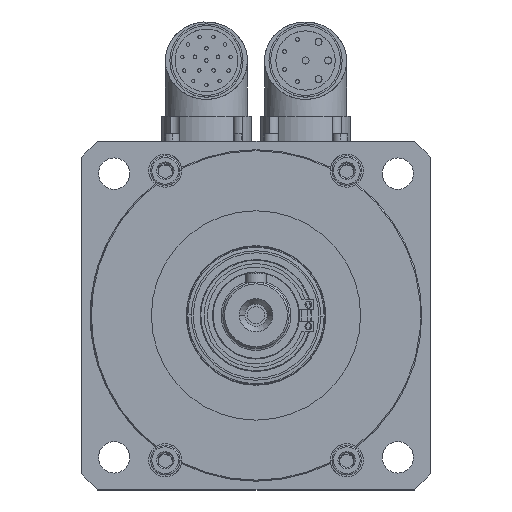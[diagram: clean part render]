
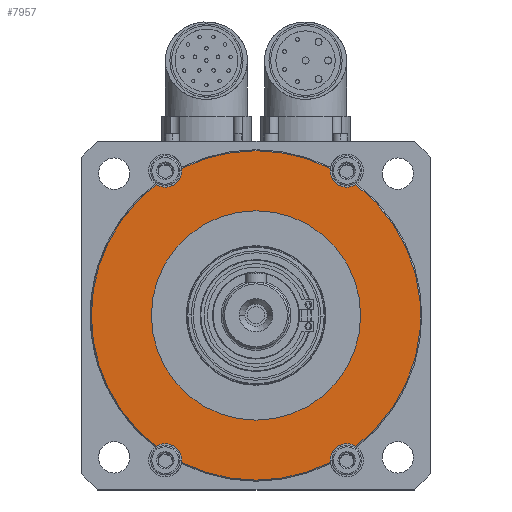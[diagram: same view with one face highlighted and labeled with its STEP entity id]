
A CAD part, top view. The second image highlights one B-rep face of the part: STEP entity #7957.
In plain terms, the highlighted planar face has unit normal (0, 0, 1).
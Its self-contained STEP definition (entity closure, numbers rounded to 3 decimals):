
#112 = EDGE_CURVE ( 'NONE', #15898, #15951, #12362, .T. ) ;
#117 = EDGE_CURVE ( 'NONE', #16060, #16057, #12368, .T. ) ;
#123 = EDGE_CURVE ( 'NONE', #15860, #15910, #12376, .T. ) ;
#138 = EDGE_CURVE ( 'NONE', #15781, #16076, #12395, .T. ) ;
#146 = EDGE_CURVE ( 'NONE', #15902, #15911, #12404, .T. ) ;
#150 = EDGE_CURVE ( 'NONE', #15812, #15860, #12409, .T. ) ;
#229 = EDGE_CURVE ( 'NONE', #16093, #16021, #6419, .T. ) ;
#321 = EDGE_CURVE ( 'NONE', #15812, #16076, #6522, .T. ) ;
#368 = AXIS2_PLACEMENT_3D ( 'NONE', #8375, #8341, #8376 ) ;
#372 = AXIS2_PLACEMENT_3D ( 'NONE', #8440, #8439, #8442 ) ;
#374 = AXIS2_PLACEMENT_3D ( 'NONE', #8434, #8423, #8425 ) ;
#389 = AXIS2_PLACEMENT_3D ( 'NONE', #11384, #11383, #11408 ) ;
#392 = AXIS2_PLACEMENT_3D ( 'NONE', #11365, #11360, #11359 ) ;
#394 = AXIS2_PLACEMENT_3D ( 'NONE', #11353, #11346, #11345 ) ;
#422 = CARTESIAN_POINT ( 'NONE',  ( 0., 0., 20. ) ) ;
#434 = DIRECTION ( 'NONE',  ( 0., 0., 1. ) ) ;
#435 = DIRECTION ( 'NONE',  ( 1., 0., 0. ) ) ;
#783 = CARTESIAN_POINT ( 'NONE',  ( 26., 41.5, 20. ) ) ;
#789 = CARTESIAN_POINT ( 'NONE',  ( 26., -41.5, 20. ) ) ;
#790 = DIRECTION ( 'NONE',  ( 0., 0., 1. ) ) ;
#791 = DIRECTION ( 'NONE',  ( 1., 0., 0. ) ) ;
#801 = DIRECTION ( 'NONE',  ( 0., 0., 1. ) ) ;
#802 = DIRECTION ( 'NONE',  ( 1., 0., 0. ) ) ;
#806 = CARTESIAN_POINT ( 'NONE',  ( 0., 0., 20. ) ) ;
#808 = DIRECTION ( 'NONE',  ( 0., 0., 1. ) ) ;
#809 = DIRECTION ( 'NONE',  ( 1., 0., 0. ) ) ;
#1059 = CARTESIAN_POINT ( 'NONE',  ( -50., 50., 20. ) ) ;
#1060 = PLANE ( 'NONE',  #7539 ) ;
#1062 = DIRECTION ( 'NONE',  ( 0., 0., 1. ) ) ;
#1063 = DIRECTION ( 'NONE',  ( 1., 0., 0. ) ) ;
#2626 = EDGE_LOOP ( 'NONE', ( #13038, #9365, #9368, #13713, #9369, #9374, #13675, #9359, #9360, #13653, #13700, #13686, #13715 ) ) ;
#4307 = CIRCLE ( 'NONE', #10891, 47.2 ) ;
#4726 = DIRECTION ( 'NONE',  ( 1., 0., 0. ) ) ;
#4734 = CARTESIAN_POINT ( 'NONE',  ( 0., 0., 20. ) ) ;
#4736 = DIRECTION ( 'NONE',  ( 0., 0., 1. ) ) ;
#5187 = EDGE_CURVE ( 'NONE', #16060, #15898, #10600, .T. ) ;
#5192 = EDGE_CURVE ( 'NONE', #16057, #15910, #10606, .T. ) ;
#5627 = EDGE_LOOP ( 'NONE', ( #11995, #11878 ) ) ;
#5743 = FACE_OUTER_BOUND ( 'NONE', #2626, .T. ) ;
#5750 = FACE_BOUND ( 'NONE', #5627, .T. ) ;
#5900 = CIRCLE ( 'NONE', #7613, 30. ) ;
#6140 = CIRCLE ( 'NONE', #10851, 4.75 ) ;
#6145 = CIRCLE ( 'NONE', #10855, 4.75 ) ;
#6148 = CIRCLE ( 'NONE', #10854, 47.2 ) ;
#6419 = CIRCLE ( 'NONE', #8057, 30. ) ;
#6522 = CIRCLE ( 'NONE', #8076, 47.2 ) ;
#7539 = AXIS2_PLACEMENT_3D ( 'NONE', #1059, #1062, #1063 ) ;
#7613 = AXIS2_PLACEMENT_3D ( 'NONE', #422, #434, #435 ) ;
#7957 = ADVANCED_FACE ( 'NONE', ( #5743, #5750 ), #1060, .T. ) ;
#8057 = AXIS2_PLACEMENT_3D ( 'NONE', #4734, #4736, #4726 ) ;
#8076 = AXIS2_PLACEMENT_3D ( 'NONE', #8667, #8663, #8669 ) ;
#8341 = DIRECTION ( 'NONE',  ( 0., 0., 1. ) ) ;
#8375 = CARTESIAN_POINT ( 'NONE',  ( -26., 41.5, 20. ) ) ;
#8376 = DIRECTION ( 'NONE',  ( 1., 0., 0. ) ) ;
#8423 = DIRECTION ( 'NONE',  ( 0., 0., 1. ) ) ;
#8425 = DIRECTION ( 'NONE',  ( 1., 0., 0. ) ) ;
#8434 = CARTESIAN_POINT ( 'NONE',  ( 0., 0., 20. ) ) ;
#8439 = DIRECTION ( 'NONE',  ( 0., 0., 1. ) ) ;
#8440 = CARTESIAN_POINT ( 'NONE',  ( -26., -41.5, 20. ) ) ;
#8442 = DIRECTION ( 'NONE',  ( 1., 0., 0. ) ) ;
#8663 = DIRECTION ( 'NONE',  ( 0., 0., 1. ) ) ;
#8667 = CARTESIAN_POINT ( 'NONE',  ( 0., 0., 20. ) ) ;
#8669 = DIRECTION ( 'NONE',  ( 1., 0., 0. ) ) ;
#9359 = ORIENTED_EDGE ( 'NONE', *, *, #11566, .F. ) ;
#9360 = ORIENTED_EDGE ( 'NONE', *, *, #11568, .T. ) ;
#9365 = ORIENTED_EDGE ( 'NONE', *, *, #117, .T. ) ;
#9368 = ORIENTED_EDGE ( 'NONE', *, *, #5192, .T. ) ;
#9369 = ORIENTED_EDGE ( 'NONE', *, *, #150, .F. ) ;
#9374 = ORIENTED_EDGE ( 'NONE', *, *, #321, .T. ) ;
#10600 = CIRCLE ( 'NONE', #13734, 4.75 ) ;
#10606 = CIRCLE ( 'NONE', #13737, 47.2 ) ;
#10668 = EDGE_CURVE ( 'NONE', #16021, #16093, #5900, .T. ) ;
#10851 = AXIS2_PLACEMENT_3D ( 'NONE', #783, #790, #791 ) ;
#10854 = AXIS2_PLACEMENT_3D ( 'NONE', #806, #808, #809 ) ;
#10855 = AXIS2_PLACEMENT_3D ( 'NONE', #789, #801, #802 ) ;
#10891 = AXIS2_PLACEMENT_3D ( 'NONE', #14299, #14308, #14309 ) ;
#11345 = DIRECTION ( 'NONE',  ( 1., 0., 0. ) ) ;
#11346 = DIRECTION ( 'NONE',  ( 0., 0., 1. ) ) ;
#11353 = CARTESIAN_POINT ( 'NONE',  ( -26., -41.5, 20. ) ) ;
#11359 = DIRECTION ( 'NONE',  ( 1., 0., 0. ) ) ;
#11360 = DIRECTION ( 'NONE',  ( 0., 0., 1. ) ) ;
#11365 = CARTESIAN_POINT ( 'NONE',  ( 26., 41.5, 20. ) ) ;
#11383 = DIRECTION ( 'NONE',  ( 0., 0., 1. ) ) ;
#11384 = CARTESIAN_POINT ( 'NONE',  ( 26., -41.5, 20. ) ) ;
#11408 = DIRECTION ( 'NONE',  ( 1., 0., 0. ) ) ;
#11562 = EDGE_CURVE ( 'NONE', #15873, #15902, #6140, .T. ) ;
#11566 = EDGE_CURVE ( 'NONE', #15908, #15781, #6145, .T. ) ;
#11568 = EDGE_CURVE ( 'NONE', #15908, #15911, #6148, .T. ) ;
#11649 = EDGE_CURVE ( 'NONE', #15873, #15951, #4307, .T. ) ;
#11878 = ORIENTED_EDGE ( 'NONE', *, *, #10668, .F. ) ;
#11995 = ORIENTED_EDGE ( 'NONE', *, *, #229, .F. ) ;
#12362 = CIRCLE ( 'NONE', #368, 4.75 ) ;
#12368 = CIRCLE ( 'NONE', #374, 47.2 ) ;
#12376 = CIRCLE ( 'NONE', #372, 4.75 ) ;
#12395 = CIRCLE ( 'NONE', #389, 4.75 ) ;
#12404 = CIRCLE ( 'NONE', #392, 4.75 ) ;
#12409 = CIRCLE ( 'NONE', #394, 4.75 ) ;
#12485 = CARTESIAN_POINT ( 'NONE',  ( -26., 41.5, 20. ) ) ;
#12487 = DIRECTION ( 'NONE',  ( 0., 0., 1. ) ) ;
#12488 = DIRECTION ( 'NONE',  ( 1., 0., 0. ) ) ;
#12499 = CARTESIAN_POINT ( 'NONE',  ( 0., 0., 20. ) ) ;
#12503 = DIRECTION ( 'NONE',  ( 0., 0., 1. ) ) ;
#12504 = DIRECTION ( 'NONE',  ( 1., 0., 0. ) ) ;
#13038 = ORIENTED_EDGE ( 'NONE', *, *, #5187, .F. ) ;
#13653 = ORIENTED_EDGE ( 'NONE', *, *, #146, .F. ) ;
#13675 = ORIENTED_EDGE ( 'NONE', *, *, #138, .F. ) ;
#13686 = ORIENTED_EDGE ( 'NONE', *, *, #11649, .T. ) ;
#13700 = ORIENTED_EDGE ( 'NONE', *, *, #11562, .F. ) ;
#13713 = ORIENTED_EDGE ( 'NONE', *, *, #123, .F. ) ;
#13715 = ORIENTED_EDGE ( 'NONE', *, *, #112, .F. ) ;
#13734 = AXIS2_PLACEMENT_3D ( 'NONE', #12485, #12487, #12488 ) ;
#13737 = AXIS2_PLACEMENT_3D ( 'NONE', #12499, #12503, #12504 ) ;
#14299 = CARTESIAN_POINT ( 'NONE',  ( 0., 0., 20. ) ) ;
#14308 = DIRECTION ( 'NONE',  ( 0., 0., 1. ) ) ;
#14309 = DIRECTION ( 'NONE',  ( 1., 0., 0. ) ) ;
#15781 = VERTEX_POINT ( 'NONE', #16366 ) ;
#15812 = VERTEX_POINT ( 'NONE', #16396 ) ;
#15860 = VERTEX_POINT ( 'NONE', #16444 ) ;
#15873 = VERTEX_POINT ( 'NONE', #16457 ) ;
#15898 = VERTEX_POINT ( 'NONE', #16482 ) ;
#15902 = VERTEX_POINT ( 'NONE', #16486 ) ;
#15908 = VERTEX_POINT ( 'NONE', #16492 ) ;
#15910 = VERTEX_POINT ( 'NONE', #16494 ) ;
#15911 = VERTEX_POINT ( 'NONE', #16495 ) ;
#15951 = VERTEX_POINT ( 'NONE', #16535 ) ;
#16021 = VERTEX_POINT ( 'NONE', #16605 ) ;
#16057 = VERTEX_POINT ( 'NONE', #16641 ) ;
#16060 = VERTEX_POINT ( 'NONE', #16644 ) ;
#16076 = VERTEX_POINT ( 'NONE', #16660 ) ;
#16093 = VERTEX_POINT ( 'NONE', #16677 ) ;
#16366 = CARTESIAN_POINT ( 'NONE',  ( 21.25, -41.5, 20. ) ) ;
#16396 = CARTESIAN_POINT ( 'NONE',  ( -21.291, -42.125, 20. ) ) ;
#16444 = CARTESIAN_POINT ( 'NONE',  ( -21.25, -41.5, 20. ) ) ;
#16457 = CARTESIAN_POINT ( 'NONE',  ( 21.291, 42.125, 20. ) ) ;
#16482 = CARTESIAN_POINT ( 'NONE',  ( -21.25, 41.5, 20. ) ) ;
#16486 = CARTESIAN_POINT ( 'NONE',  ( 21.25, 41.5, 20. ) ) ;
#16492 = CARTESIAN_POINT ( 'NONE',  ( 28.617, -37.536, 20. ) ) ;
#16494 = CARTESIAN_POINT ( 'NONE',  ( -28.617, -37.536, 20. ) ) ;
#16495 = CARTESIAN_POINT ( 'NONE',  ( 28.617, 37.536, 20. ) ) ;
#16535 = CARTESIAN_POINT ( 'NONE',  ( -21.291, 42.125, 20. ) ) ;
#16605 = CARTESIAN_POINT ( 'NONE',  ( -30., 0., 20. ) ) ;
#16641 = CARTESIAN_POINT ( 'NONE',  ( -47.2, 0., 20. ) ) ;
#16644 = CARTESIAN_POINT ( 'NONE',  ( -28.617, 37.536, 20. ) ) ;
#16660 = CARTESIAN_POINT ( 'NONE',  ( 21.291, -42.125, 20. ) ) ;
#16677 = CARTESIAN_POINT ( 'NONE',  ( 30., 0., 20. ) ) ;
